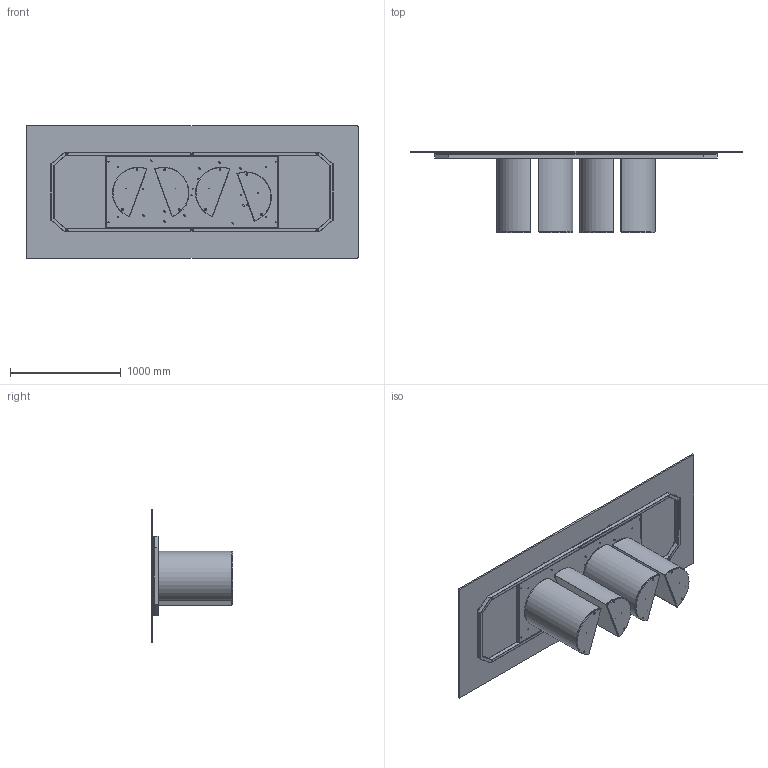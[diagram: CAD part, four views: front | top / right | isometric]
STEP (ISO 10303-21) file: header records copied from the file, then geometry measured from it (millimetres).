
FILE_DESCRIPTION (( 'STEP AP203' ), '1' );
FILE_NAME ('PL24G.STEP', '2024-08-07T13:56:57', ( '' ), ( '' ), 'SwSTEP 2.0', 'SolidWorks 2022', '' );
FILE_SCHEMA (( 'CONFIG_CONTROL_DESIGN' ));
Length unit declared in the file: millimetre
Products named in the file (14): M8xXXmm_hex_M8X60mm; 434070-00-PIEDINO TPV GOMMA NERO D. 30x8max18_filo estetico; rondella M8_8X24; M8xXXmm_M8x20mm; C2XCRXX-00-Piani Rettangolari Cristallo_24 3000x1200; TTAV07-04-TELAIO X TAVOLI PLAI ONDA NOA 300; PL24G; PLA000000BAS-00-PLAI BASE GREZZA; Assieme Basamento PLAI_Basamento per tavoli; M8xXXmm_hex_M8X20mm; COLLO TELAIO UNIVERSALE TTAV07 CON FERRAMENTA_MTG TOP CRISTALLO VERNICIATO-CERAMICA; TTAV07_01-04-STRUTTURA TAVOLI PLAI ONDA NOA 300; PLA000000ZOC-01-PLAI ZOCCOLO DELLA BASE; TTAV07_02-01-VASSOIO TELAIO  PLAI ONDA NOA 300
Assembly tree (37 placements, depth 4):
  PL24G
    COLLO TELAIO UNIVERSALE TTAV07 CON FERRAMENTA_MTG TOP CRISTALLO VERNICIATO-CERAMICA
      TTAV07-04-TELAIO X TAVOLI PLAI ONDA NOA 300
        TTAV07_01-04-STRUTTURA TAVOLI PLAI ONDA NOA 300
        TTAV07_02-01-VASSOIO TELAIO  PLAI ONDA NOA 300
      434070-00-PIEDINO TPV GOMMA NERO D. 30x8max18_filo estetico  x8
    Assieme Basamento PLAI_Basamento per tavoli  x4
      PLA000000BAS-00-PLAI BASE GREZZA
      PLA000000ZOC-01-PLAI ZOCCOLO DELLA BASE
      M8xXXmm_hex_M8X60mm
      M8xXXmm_hex_M8X20mm
    rondella M8_8X24  x8
    M8xXXmm_M8x20mm  x8
    C2XCRXX-00-Piani Rettangolari Cristallo_24 3000x1200
Bounding box: 3000 x 739 x 1200 mm (x, y, z)
Volume: 71430483.9 mm3; surface area: 19069099.3 mm2
Topology: 63 solids, 63 shells, 1340 faces, 3036 edges, 1800 vertices
Faces by surface type: plane 572, cylinder 448, cone 160, torus 144, sphere 16
Entity records: 19205 total; most frequent: DIRECTION 3119, CARTESIAN_POINT 2983, ORIENTED_EDGE 2792, EDGE_CURVE 1396, AXIS2_PLACEMENT_3D 1154, VERTEX_POINT 868, VECTOR 811, LINE 811
